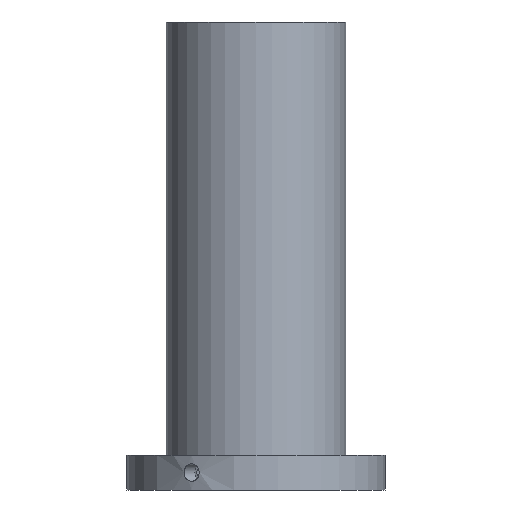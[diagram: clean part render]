
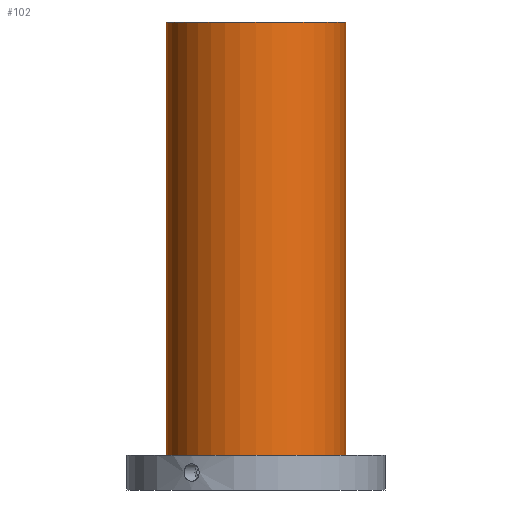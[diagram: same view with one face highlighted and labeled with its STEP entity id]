
A CAD part, front view. The second image highlights one B-rep face of the part: STEP entity #102.
In plain terms, the highlighted cylindrical face has radius 41 mm (diameter 82 mm), a full revolution.
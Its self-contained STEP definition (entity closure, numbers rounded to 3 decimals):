
#102=ADVANCED_FACE('',(#136,#137),#119,.T.);
#119=CYLINDRICAL_SURFACE('',#371,41.);
#136=FACE_BOUND('',#188,.T.);
#137=FACE_BOUND('',#189,.T.);
#188=EDGE_LOOP('',(#240));
#189=EDGE_LOOP('',(#241));
#240=ORIENTED_EDGE('',*,*,#318,.F.);
#241=ORIENTED_EDGE('',*,*,#319,.T.);
#292=VERTEX_POINT('',#557);
#293=VERTEX_POINT('',#559);
#318=EDGE_CURVE('',#292,#292,#343,.T.);
#319=EDGE_CURVE('',#293,#293,#344,.T.);
#343=CIRCLE('',#369,41.);
#344=CIRCLE('',#370,41.);
#369=AXIS2_PLACEMENT_3D('',#556,#415,#416);
#370=AXIS2_PLACEMENT_3D('',#558,#417,#418);
#371=AXIS2_PLACEMENT_3D('',#560,#419,#420);
#415=DIRECTION('',(0.,0.,-1.));
#416=DIRECTION('',(1.,0.,0.));
#417=DIRECTION('',(0.,0.,-1.));
#418=DIRECTION('',(1.,0.,0.));
#419=DIRECTION('',(0.,0.,-1.));
#420=DIRECTION('',(-1.,0.,0.));
#556=CARTESIAN_POINT('',(0.,0.,16.));
#557=CARTESIAN_POINT('',(41.,0.,16.));
#558=CARTESIAN_POINT('',(0.,0.,214.));
#559=CARTESIAN_POINT('',(41.,0.,214.));
#560=CARTESIAN_POINT('',(0.,0.,214.));
